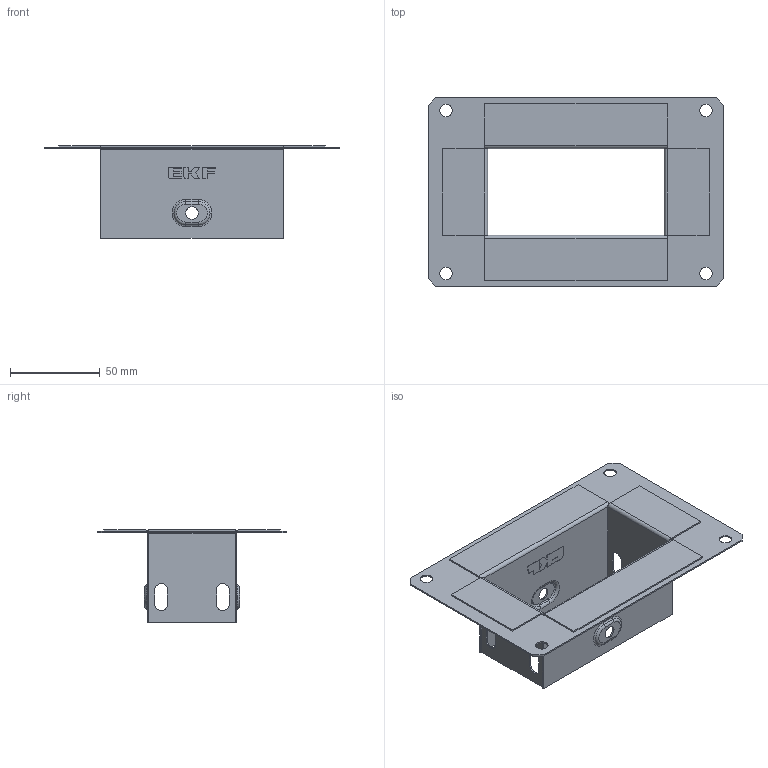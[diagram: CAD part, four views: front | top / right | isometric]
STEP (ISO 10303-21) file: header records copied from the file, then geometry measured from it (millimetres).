
FILE_DESCRIPTION (( 'STEP AP203' ), '1' );
FILE_NAME ('f50100_捘.STEP', '2020-01-23T12:27:07', ( '' ), ( '' ), 'SwSTEP 2.0', 'SolidWorks 2016', '' );
FILE_SCHEMA (( 'CONFIG_CONTROL_DESIGN' ));
Length unit declared in the file: millimetre
Products named in the file (9): f50100_1; f35100_2; f5050_3; f50100_捘
Assembly tree (5 placements, depth 2):
  f50100_捘
    f50100_1
    f35100_2  x2
    f5050_3  x2
  f50100_1
  f35100_2
  f35100_2
  f5050_3
Bounding box: 165 x 105 x 51.5 mm (x, y, z)
Volume: 27185.5 mm3; surface area: 69817.1 mm2
Topology: 5 solids, 5 shells, 306 faces, 792 edges, 512 vertices
Faces by surface type: plane 212, cylinder 60, bspline 18, torus 16
Entity records: 6262 total; most frequent: CARTESIAN_POINT 1358, ORIENTED_EDGE 852, DIRECTION 816, EDGE_CURVE 426, LINE 328, VECTOR 328, VERTEX_POINT 276, AXIS2_PLACEMENT_3D 244
